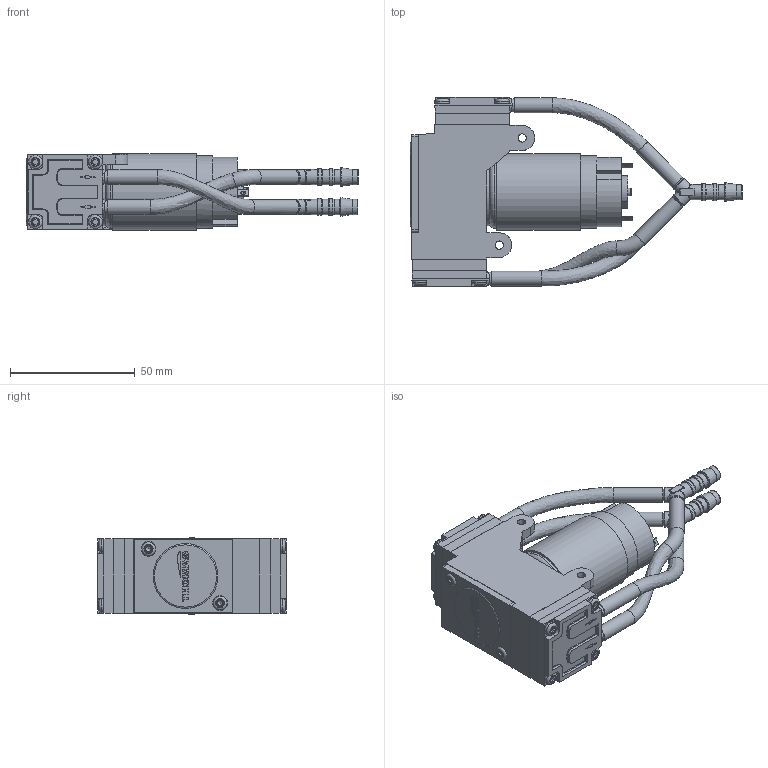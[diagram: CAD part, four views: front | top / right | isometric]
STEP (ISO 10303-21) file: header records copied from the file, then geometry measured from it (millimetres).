
FILE_DESCRIPTION (( 'STEP AP203' ), '1' );
FILE_NAME ('14200201-18.STEP', '2018-11-21T12:53:14', ( 'admin' ), ( 'Gardner Denver' ), 'SwSTEP 2.0', 'SolidWorks 2017', '' );
FILE_SCHEMA (( 'CONFIG_CONTROL_DESIGN' ));
Length unit declared in the file: metre
Products named in the file (1): 14200201-18
Bounding box: 133.15 x 75.8 x 30.68 mm (x, y, z)
Volume: 117934.1 mm3; surface area: 26561.7 mm2
Topology: 1 solids, 1 shells, 1113 faces, 3074 edges, 2021 vertices
Faces by surface type: plane 715, cylinder 245, bspline 56, torus 49, cone 48
Full cylindrical faces by diameter (mm): 2.701 x1, 3.175 x1, 5.55 x8, 5.6 x2, 6 x10, 6.1 x12, 6.8 x4, 27 x1, 29 x1
Entity records: 36306 total; most frequent: CARTESIAN_POINT 8865, ORIENTED_EDGE 5872, DIRECTION 5284, EDGE_CURVE 2936, LINE 2136, VECTOR 2136, VERTEX_POINT 1984, AXIS2_PLACEMENT_3D 1574
